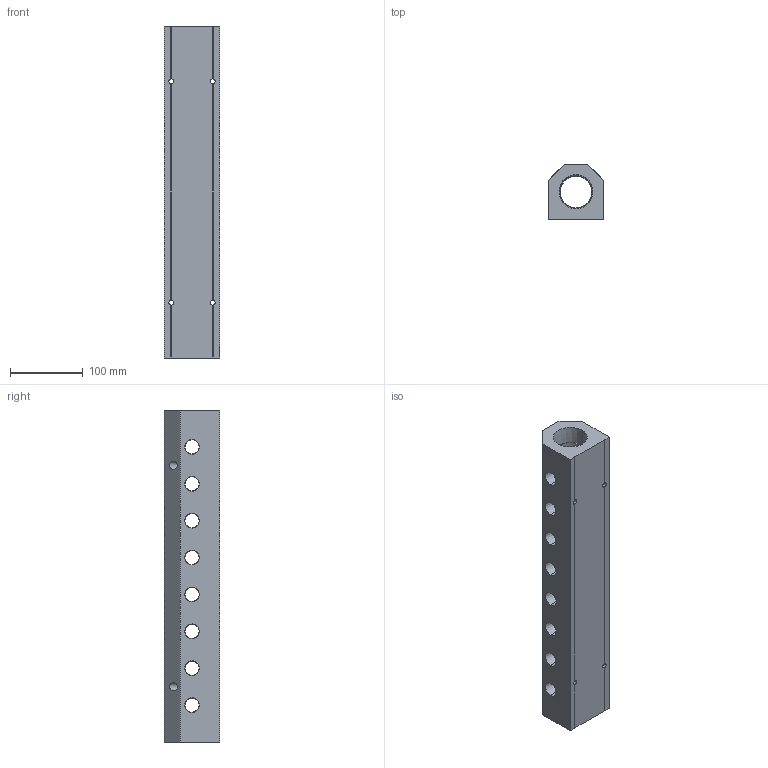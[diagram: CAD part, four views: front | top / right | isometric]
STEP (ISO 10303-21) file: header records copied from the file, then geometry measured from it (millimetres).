
FILE_DESCRIPTION (( 'STEP AP214' ), '1' );
FILE_NAME ('ALM8ACE-N8N24-457B.step', '2022-02-07T09:29:27', ( '' ), ( '' ), 'SwSTEP 2.0', 'SolidWorks 2020', '' );
FILE_SCHEMA (( 'AUTOMOTIVE_DESIGN' ));
Length unit declared in the file: millimetre
Products named in the file (1): ALM8ACE-N8N24-457B
Bounding box: 76.2 x 76.2 x 457 mm (x, y, z)
Volume: 1579411.5 mm3; surface area: 214506.4 mm2
Topology: 1 solids, 1 shells, 363 faces, 983 edges, 642 vertices
Faces by surface type: plane 223, bspline 70, cone 52, cylinder 18
Entity records: 21155 total; most frequent: CARTESIAN_POINT 8995, ORIENTED_EDGE 1966, DIRECTION 1451, EDGE_CURVE 983, VECTOR 695, LINE 695, VERTEX_POINT 642, EDGE_LOOP 441
